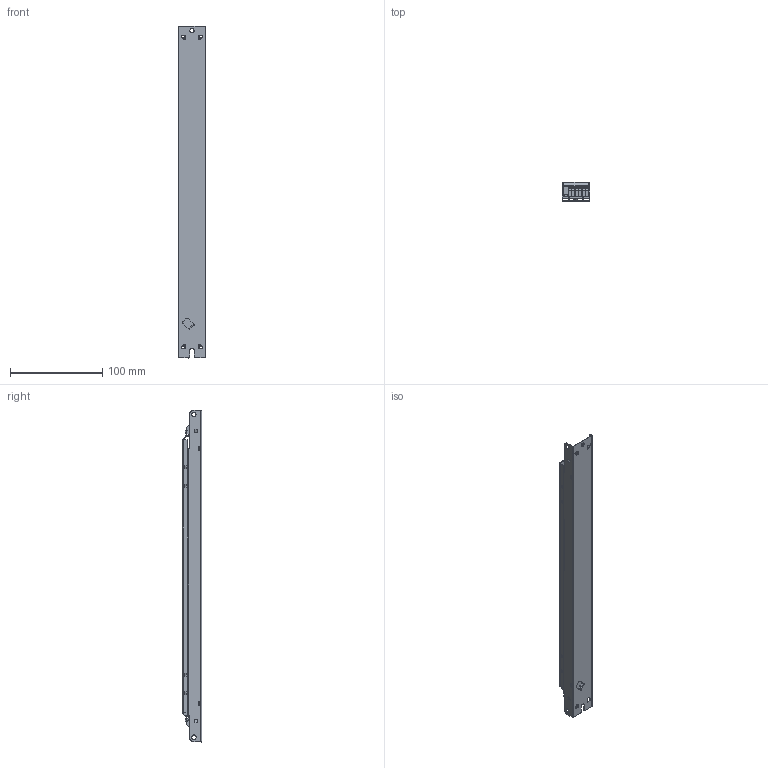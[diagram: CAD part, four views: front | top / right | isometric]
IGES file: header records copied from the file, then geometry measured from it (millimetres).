
Start section: SolidWorks IGES file using analytic representation for surfaces
Global section: file name: C:\Users\vuorinen_kari\Desktop\prj\LL1x50-DA\LL1x50-E-DA.IGS; native system: SolidWorks 2014; preprocessor: SolidWorks 2014; author: Vuorinen_Kari; date: 150605.142335; units: millimetre
Bounding box: 30.04 x 20.81 x 360 mm (x, y, z)
Surface area: 96378.7 mm2 (no closed solid volume)
Topology: 0 solids, 0 shells, 838 faces, 7594 edges, 7594 vertices
Faces by surface type: bspline 538, revolution 300
